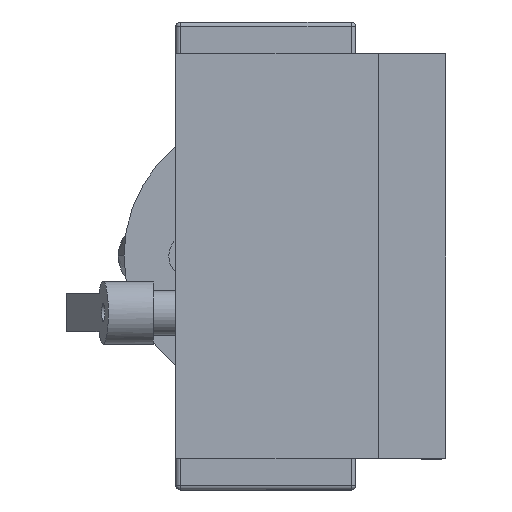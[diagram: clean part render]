
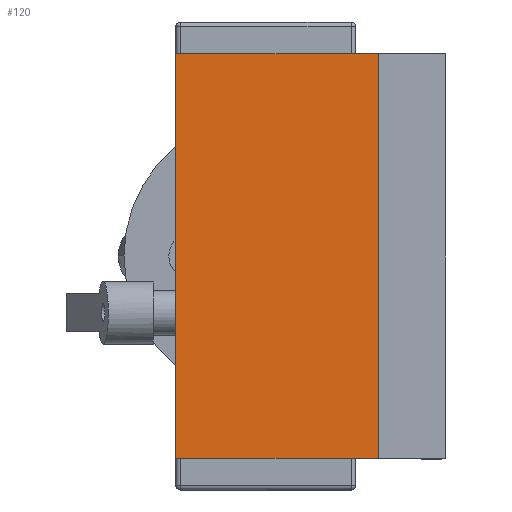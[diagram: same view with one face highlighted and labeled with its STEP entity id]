
A CAD part, left-side view. The second image highlights one B-rep face of the part: STEP entity #120.
In plain terms, the highlighted planar face has unit normal (-1, 0, 0).
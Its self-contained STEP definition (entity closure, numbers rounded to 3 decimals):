
#15 = VECTOR ( 'NONE', #15158, 1000. ) ;
#24 = EDGE_LOOP ( 'NONE', ( #8719, #10276, #678, #2740 ) ) ;
#83 = PLANE ( 'NONE',  #18056 ) ;
#120 = ADVANCED_FACE ( 'NONE', ( #7061 ), #83, .F. ) ;
#678 = ORIENTED_EDGE ( 'NONE', *, *, #6435, .F. ) ;
#692 = CARTESIAN_POINT ( 'NONE',  ( -160., 15., 45. ) ) ;
#1980 = EDGE_CURVE ( 'NONE', #4279, #12143, #5462, .T. ) ;
#2740 = ORIENTED_EDGE ( 'NONE', *, *, #10438, .F. ) ;
#4098 = CARTESIAN_POINT ( 'NONE',  ( -160., 15., -45. ) ) ;
#4279 = VERTEX_POINT ( 'NONE', #12516 ) ;
#4531 = DIRECTION ( 'NONE',  ( 1., 0., 0. ) ) ;
#4867 = EDGE_CURVE ( 'NONE', #8181, #4279, #5859, .T. ) ;
#5462 = LINE ( 'NONE', #10763, #15 ) ;
#5859 = LINE ( 'NONE', #7468, #11102 ) ;
#6229 = DIRECTION ( 'NONE',  ( 0., 0., 1. ) ) ;
#6435 = EDGE_CURVE ( 'NONE', #7324, #8181, #16552, .T. ) ;
#6640 = LINE ( 'NONE', #9396, #9907 ) ;
#7061 = FACE_OUTER_BOUND ( 'NONE', #24, .T. ) ;
#7284 = DIRECTION ( 'NONE',  ( 0., 0., -1. ) ) ;
#7324 = VERTEX_POINT ( 'NONE', #4098 ) ;
#7468 = CARTESIAN_POINT ( 'NONE',  ( -160., 60., 0. ) ) ;
#8181 = VERTEX_POINT ( 'NONE', #17879 ) ;
#8719 = ORIENTED_EDGE ( 'NONE', *, *, #1980, .F. ) ;
#8800 = DIRECTION ( 'NONE',  ( 0., 1., 0. ) ) ;
#9396 = CARTESIAN_POINT ( 'NONE',  ( -160., 15., 0. ) ) ;
#9907 = VECTOR ( 'NONE', #13832, 1000. ) ;
#10276 = ORIENTED_EDGE ( 'NONE', *, *, #4867, .F. ) ;
#10438 = EDGE_CURVE ( 'NONE', #12143, #7324, #6640, .T. ) ;
#10763 = CARTESIAN_POINT ( 'NONE',  ( -160., 37.5, 45. ) ) ;
#11102 = VECTOR ( 'NONE', #6229, 1000. ) ;
#12143 = VERTEX_POINT ( 'NONE', #692 ) ;
#12172 = VECTOR ( 'NONE', #8800, 1000. ) ;
#12516 = CARTESIAN_POINT ( 'NONE',  ( -160., 60., 45. ) ) ;
#12936 = CARTESIAN_POINT ( 'NONE',  ( -160., 37.5, 0. ) ) ;
#13832 = DIRECTION ( 'NONE',  ( 0., 0., -1. ) ) ;
#15158 = DIRECTION ( 'NONE',  ( 0., -1., 0. ) ) ;
#16552 = LINE ( 'NONE', #17199, #12172 ) ;
#17199 = CARTESIAN_POINT ( 'NONE',  ( -160., 37.5, -45. ) ) ;
#17879 = CARTESIAN_POINT ( 'NONE',  ( -160., 60., -45. ) ) ;
#18056 = AXIS2_PLACEMENT_3D ( 'NONE', #12936, #4531, #7284 ) ;
